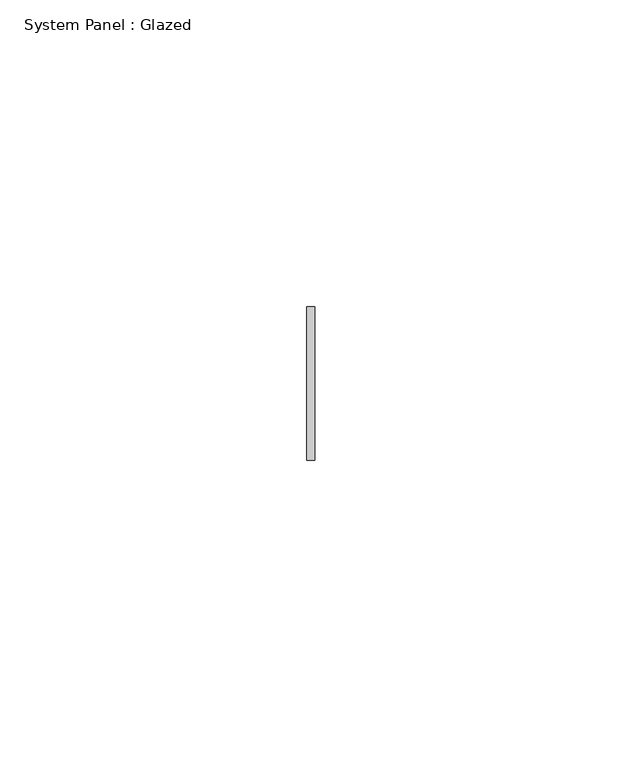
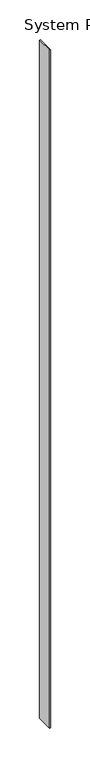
"""IFC4 building model written with IfcOpenShell, lengths in millimetres: plate geometry, System Panel : Glazed."""

from ifc_helpers import new_model, si_unit, origin, origin_with_axes, place, context, project, spatial, polyline, outline, extrude, source, transform, mapped, element, save


def system_panel_glazed_66c00574(model_context):
    return source(origin(), model_context, "Body", "SweptSolid", [
        extrude(outline(polyline([(0.6581169, -12.5), (-0.6581169, -12.5), (-0.6581169, 12.5), (0.6581169, 12.5), (0.6581169, -12.5)])), origin_with_axes(), (0.0, 0.0, 1.0), 1041.7444455),
    ])


if __name__ == "__main__":
    model = new_model("IFC4")
    model_context = context("Model", 3, world=origin())
    ifc_project = project(units=[si_unit("LENGTHUNIT", "METRE", prefix="MILLI")], contexts=[model_context])
    site = spatial("IfcSite", under=ifc_project)
    building = spatial("IfcBuilding", under=site)
    placement = place(None, origin())
    system_panel_glazed_shape = system_panel_glazed_66c00574(model_context)
    element("IfcPlate", 1, ObjectType="System Panel : Glazed", at=placement, inside=building, context=model_context, shape_type="MappedRepresentation", body=[
        mapped(system_panel_glazed_shape, transform((0.0, 0.0, 0.0), x_axis=(1.0, 0.0, 0.0), y_axis=(0.0, 1.0, 0.0), z_axis=(0.0, 0.0, 1.0))),
    ])
    save(model, "model.ifc")
